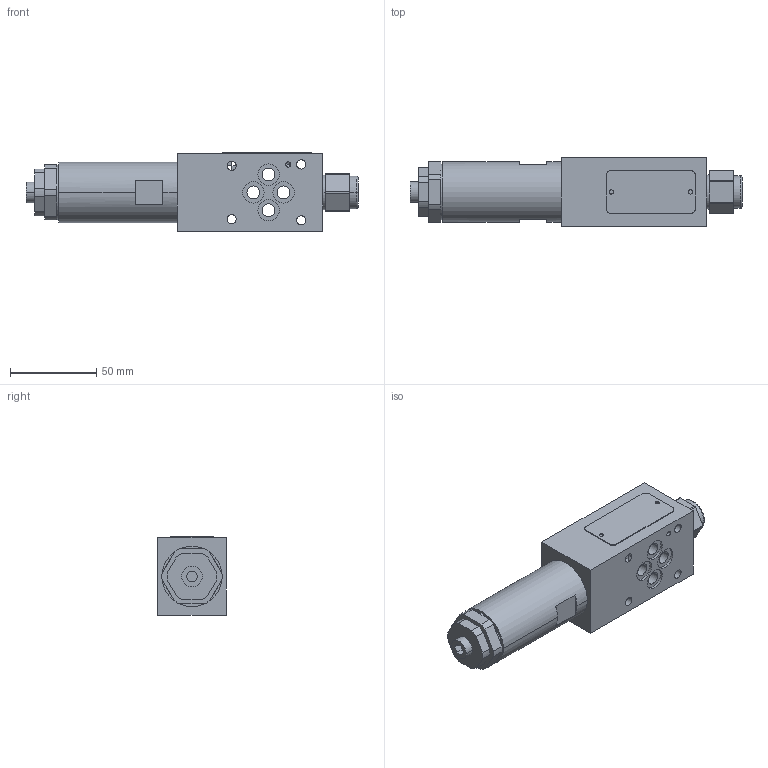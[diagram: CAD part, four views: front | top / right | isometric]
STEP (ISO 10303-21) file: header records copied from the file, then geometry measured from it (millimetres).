
FILE_DESCRIPTION((''),'2;1');
FILE_NAME('VRP2_06_BS_2_308785','2022-01-18T',('l.soukupova'),(''),'PRO/ENGINEER BY PARAMETRIC TECHNOLOGY CORPORATION, 2015440','PRO/ENGINEER BY PARAMETRIC TECHNOLOGY CORPORATION, 2015440','');
FILE_SCHEMA(('AUTOMOTIVE_DESIGN { 1 0 10303 214 1 1 1 1 }'));
Length unit declared in the file: millimetre
Products named in the file (1): VRP2_06_BS_2_308785
Bounding box: 193 x 40 x 45.5 mm (x, y, z)
Volume: 226143.6 mm3; surface area: 35377.1 mm2
Topology: 1 solids, 3 shells, 140 faces, 709 edges, 638 vertices
Faces by surface type: plane 70, cylinder 64, cone 4, torus 2
Entity records: 8078 total; most frequent: DIRECTION 1193, CARTESIAN_POINT 1112, ORIENTED_EDGE 696, VECTOR 531, LINE 531, PRESENTATION_STYLE_ASSIGNMENT 413, STYLED_ITEM 413, CURVE_STYLE 356
